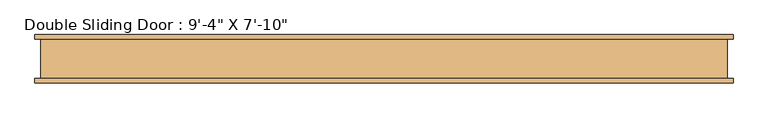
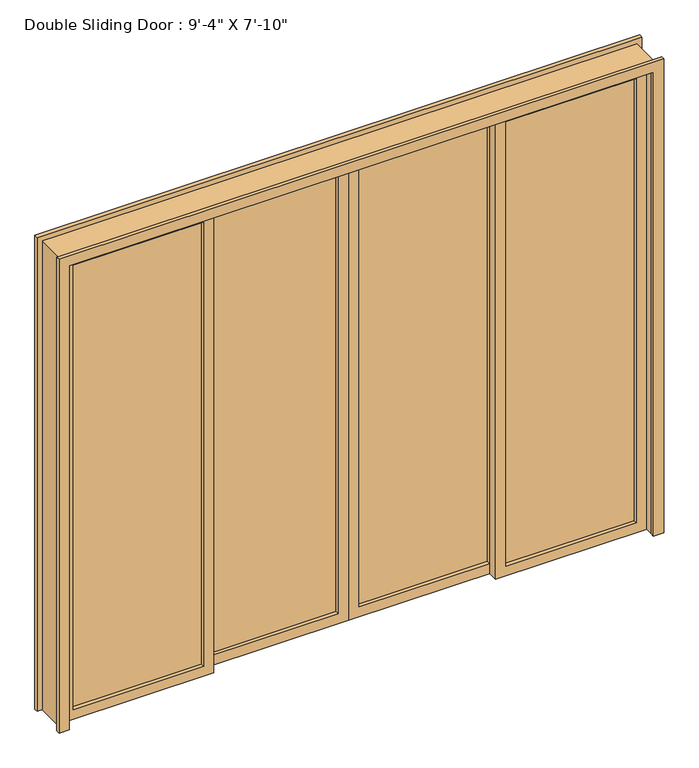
"""IFC4 building model written with IfcOpenShell, lengths in millimetres: door geometry."""

from ifc_helpers import new_model, si_unit, frame, origin, place, context, project, spatial, polyline, outline, extrude, source, transform, mapped, element, save


def door_b97ac930(model_context):
    return source(origin(), model_context, "Body", "SweptSolid", [
        extrude(outline(polyline([(685.8, 25.4), (50.8, 25.4), (50.8, 38.1), (685.8, 38.1), (685.8, 25.4)])), frame((0.0, 0.0, 50.8), z_axis=(0.0, 0.0, 1.0), x_axis=(1.0, 0.0, 0.0)), (0.0, 0.0, 1.0), 2286.0),
        extrude(outline(polyline([(-50.8, 25.4), (-685.8, 25.4), (-685.8, 38.1), (-50.8, 38.1), (-50.8, 25.4)])), frame((0.0, 0.0, 50.8), z_axis=(0.0, 0.0, 1.0), x_axis=(1.0, 0.0, 0.0)), (0.0, 0.0, 1.0), 2286.0),
        extrude(outline(polyline([(1371.6, -25.4), (736.6, -25.4), (736.6, -12.7), (1371.6, -12.7), (1371.6, -25.4)])), frame((0.0, 0.0, 50.8), z_axis=(0.0, 0.0, 1.0), x_axis=(1.0, 0.0, 0.0)), (0.0, 0.0, 1.0), 2286.0),
        extrude(outline(polyline([(-736.6, -25.4), (-1371.6, -25.4), (-1371.6, -12.7), (-736.6, -12.7), (-736.6, -25.4)])), frame((0.0, 0.0, 50.8), z_axis=(0.0, 0.0, 1.0), x_axis=(1.0, 0.0, 0.0)), (0.0, 0.0, 1.0), 2286.0),
        extrude(outline(polyline([(2387.6, 0.0), (2387.6, -736.6), (0.0, -736.6), (0.0, 0.0), (2387.6, 0.0)]), holes=[polyline([(2336.8, -685.8), (2336.8, -50.8), (50.8, -50.8), (50.8, -685.8), (2336.8, -685.8)])]), frame((0.0, 6.35, 0.0), z_axis=(0.0, 1.0, 0.0), x_axis=(0.0, 0.0, 1.0)), (0.0, 0.0, 1.0), 50.8),
        extrude(outline(polyline([(2387.6, -1422.4), (0.0, -1422.4), (0.0, -685.8), (2387.6, -685.8), (2387.6, -1422.4)]), holes=[polyline([(2336.8, -736.6), (50.8, -736.6), (50.8, -1371.6), (2336.8, -1371.6), (2336.8, -736.6)])]), frame((0.0, -44.45, 0.0), z_axis=(0.0, 1.0, 0.0), x_axis=(0.0, 0.0, 1.0)), (0.0, 0.0, 1.0), 50.8),
        extrude(outline(polyline([(2387.6, 0.0), (0.0, 0.0), (0.0, 736.6), (2387.6, 736.6), (2387.6, 0.0)]), holes=[polyline([(2336.8, 685.8), (50.8, 685.8), (50.8, 50.8), (2336.8, 50.8), (2336.8, 685.8)])]), frame((0.0, 6.35, 0.0), z_axis=(0.0, 1.0, 0.0), x_axis=(0.0, 0.0, 1.0)), (0.0, 0.0, 1.0), 50.8),
        extrude(outline(polyline([(2387.6, 1422.4), (2387.6, 685.8), (0.0, 685.8), (0.0, 1422.4), (2387.6, 1422.4)]), holes=[polyline([(2336.8, 736.6), (2336.8, 1371.6), (50.8, 1371.6), (50.8, 736.6), (2336.8, 736.6)])]), frame((0.0, -44.45, 0.0), z_axis=(0.0, 1.0, 0.0), x_axis=(0.0, 0.0, 1.0)), (0.0, 0.0, 1.0), 50.8),
        extrude(outline(polyline([(2387.6, -1422.4), (2387.6, 1422.4), (0.0, 1422.4), (0.0, 1473.2), (2438.4, 1473.2), (2438.4, -1473.2), (0.0, -1473.2), (0.0, -1422.4), (2387.6, -1422.4)])), frame((0.0, -101.6, 0.0), z_axis=(0.0, 1.0, 0.0), x_axis=(0.0, 0.0, 1.0)), (0.0, 0.0, 1.0), 19.05),
        extrude(outline(polyline([(2387.6, -1422.4), (2387.6, 1422.4), (0.0, 1422.4), (0.0, 1473.2), (2438.4, 1473.2), (2438.4, -1473.2), (0.0, -1473.2), (0.0, -1422.4), (2387.6, -1422.4)])), frame((0.0, 82.55, 0.0), z_axis=(0.0, 1.0, 0.0), x_axis=(0.0, 0.0, 1.0)), (0.0, 0.0, 1.0), 19.05),
        extrude(outline(polyline([(0.0, -1447.8), (0.0, -1422.4), (2387.6, -1422.4), (2387.6, 1422.4), (0.0, 1422.4), (0.0, 1447.8), (2413.0, 1447.8), (2413.0, -1447.8), (0.0, -1447.8)])), frame((0.0, -82.55, 0.0), z_axis=(0.0, 1.0, 0.0), x_axis=(0.0, 0.0, 1.0)), (0.0, 0.0, 1.0), 165.1),
    ])


if __name__ == "__main__":
    model = new_model("IFC4")
    model_context = context("Model", 3, world=origin())
    ifc_project = project(units=[si_unit("LENGTHUNIT", "METRE", prefix="MILLI")], contexts=[model_context])
    site = spatial("IfcSite", under=ifc_project)
    building = spatial("IfcBuilding", under=site)
    placement = place(None, origin())
    door_shape = door_b97ac930(model_context)
    element("IfcDoor", 1, ObjectType="Double Sliding Door : 9'-4\" X 7'-10\"", at=placement, inside=building, context=model_context, shape_type="MappedRepresentation", body=[
        mapped(door_shape, transform((0.0, 0.0, 0.0), x_axis=(1.0, 0.0, 0.0), y_axis=(0.0, 1.0, 0.0), z_axis=(0.0, 0.0, 1.0))),
    ])
    save(model, "model.ifc")
